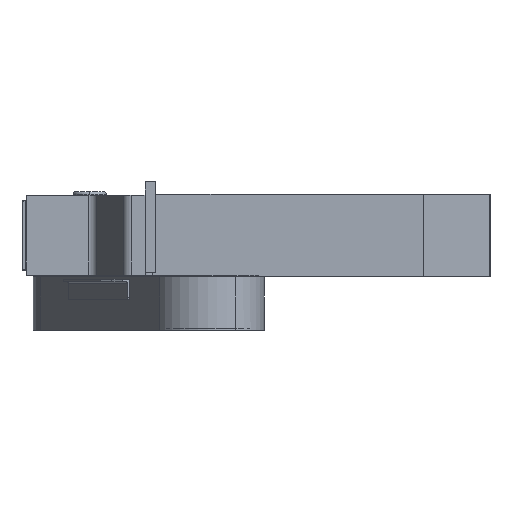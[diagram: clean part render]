
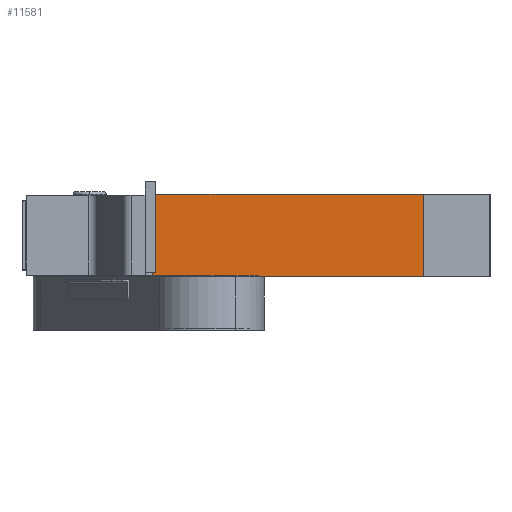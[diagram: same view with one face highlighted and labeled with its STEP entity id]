
A CAD part, left-side view. The second image highlights one B-rep face of the part: STEP entity #11581.
In plain terms, the highlighted planar face has unit normal (-1, 0, 0).
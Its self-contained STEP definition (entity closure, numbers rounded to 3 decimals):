
#44 = LINE ( 'NONE', #8871, #15968 ) ;
#1008 = AXIS2_PLACEMENT_3D ( 'NONE', #10342, #13086, #14491 ) ;
#1379 = ORIENTED_EDGE ( 'NONE', *, *, #11213, .T. ) ;
#1530 = DIRECTION ( 'NONE',  ( 0., 0., 1. ) ) ;
#1615 = LINE ( 'NONE', #3640, #9460 ) ;
#1832 = CARTESIAN_POINT ( 'NONE',  ( -51.83, -404.775, 1.5 ) ) ;
#1931 = LINE ( 'NONE', #6411, #14335 ) ;
#3640 = CARTESIAN_POINT ( 'NONE',  ( -51.83, 0., -98.5 ) ) ;
#4268 = VERTEX_POINT ( 'NONE', #11319 ) ;
#4772 = EDGE_CURVE ( 'NONE', #7214, #15185, #44, .T. ) ;
#6215 = PLANE ( 'NONE',  #1008 ) ;
#6411 = CARTESIAN_POINT ( 'NONE',  ( -51.83, -404.775, -98.5 ) ) ;
#7214 = VERTEX_POINT ( 'NONE', #15726 ) ;
#7868 = EDGE_LOOP ( 'NONE', ( #11073, #11148, #13404, #1379 ) ) ;
#8871 = CARTESIAN_POINT ( 'NONE',  ( -51.83, 0., 1.5 ) ) ;
#9430 = VECTOR ( 'NONE', #1530, 1000. ) ;
#9460 = VECTOR ( 'NONE', #14727, 1000. ) ;
#9789 = CARTESIAN_POINT ( 'NONE',  ( -51.83, -76.75, -98.5 ) ) ;
#10342 = CARTESIAN_POINT ( 'NONE',  ( -51.83, 0., -98.5 ) ) ;
#11073 = ORIENTED_EDGE ( 'NONE', *, *, #4772, .F. ) ;
#11148 = ORIENTED_EDGE ( 'NONE', *, *, #13765, .F. ) ;
#11213 = EDGE_CURVE ( 'NONE', #4268, #15185, #1931, .T. ) ;
#11319 = CARTESIAN_POINT ( 'NONE',  ( -51.83, -404.775, -98.5 ) ) ;
#11581 = ADVANCED_FACE ( 'NONE', ( #11695 ), #6215, .T. ) ;
#11695 = FACE_OUTER_BOUND ( 'NONE', #7868, .T. ) ;
#12000 = DIRECTION ( 'NONE',  ( 0., 0., 1. ) ) ;
#12907 = LINE ( 'NONE', #9789, #9430 ) ;
#13086 = DIRECTION ( 'NONE',  ( -1., 0., 0. ) ) ;
#13404 = ORIENTED_EDGE ( 'NONE', *, *, #17665, .T. ) ;
#13765 = EDGE_CURVE ( 'NONE', #13917, #7214, #12907, .T. ) ;
#13917 = VERTEX_POINT ( 'NONE', #15661 ) ;
#14335 = VECTOR ( 'NONE', #12000, 1000. ) ;
#14491 = DIRECTION ( 'NONE',  ( 0., -1., 0. ) ) ;
#14539 = DIRECTION ( 'NONE',  ( 0., -1., 0. ) ) ;
#14727 = DIRECTION ( 'NONE',  ( 0., -1., 0. ) ) ;
#15185 = VERTEX_POINT ( 'NONE', #1832 ) ;
#15661 = CARTESIAN_POINT ( 'NONE',  ( -51.83, -76.75, -98.5 ) ) ;
#15726 = CARTESIAN_POINT ( 'NONE',  ( -51.83, -76.75, 1.5 ) ) ;
#15968 = VECTOR ( 'NONE', #14539, 1000. ) ;
#17665 = EDGE_CURVE ( 'NONE', #13917, #4268, #1615, .T. ) ;
